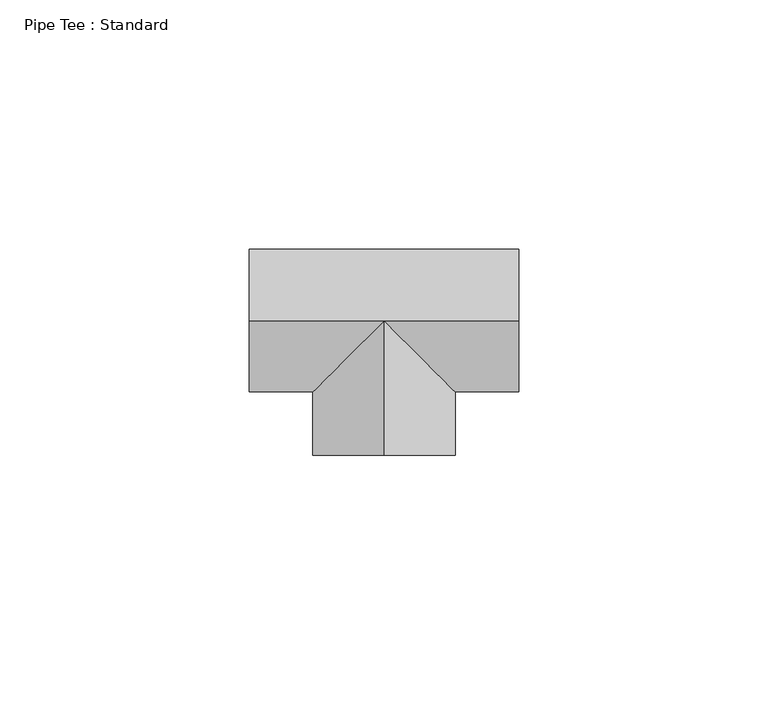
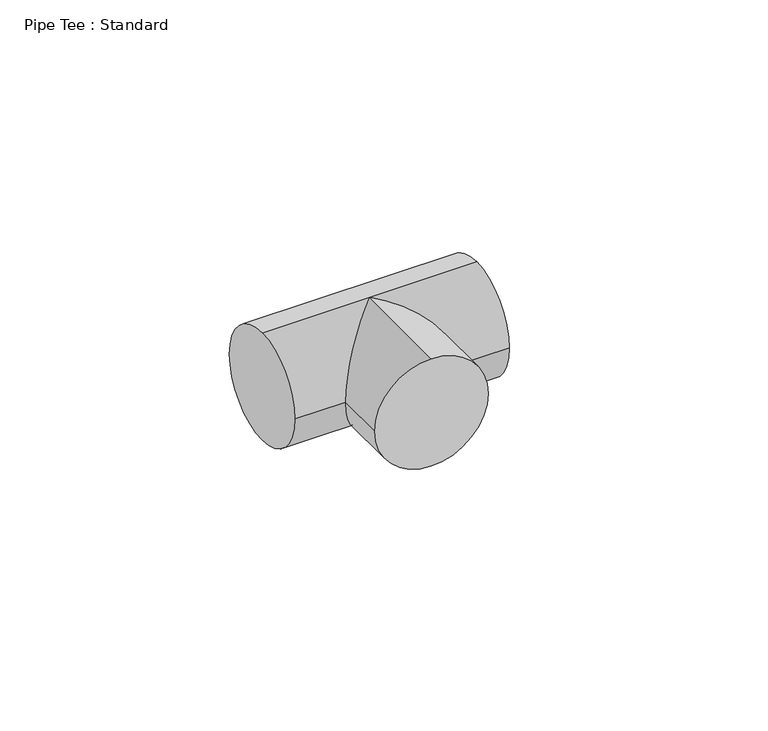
"""IFC4 building model written with IfcOpenShell, lengths in millimetres: pipe fitting geometry, Pipe Tee : Standard."""

from ifc_helpers import new_model, si_unit, frame, origin, place, context, project, spatial, circle_curve, ellipse_curve, source, transform, mapped, element, save
from ifc_brep_helpers import plane_surface, cylinder_surface, advanced_brep


def pipe_tee_standard_ee363fbf(model_context):
    return source(origin(), model_context, "Body", "AdvancedBrep", [
        advanced_brep(
        [(-26.9875, 0.0, 14.2875), (-26.9875, 14.2875, 0.0), (-26.9875, 0.0, -14.2875), (-26.9875, -14.2875, 0.0), (26.9875, 0.0, 14.2875), (26.9875, -14.2875, 0.0), (26.9875, 0.0, -14.2875), (26.9875, 14.2875, 0.0), (0.0, 0.0, 14.2875), (0.0, 0.0, -14.2875), (-14.2875, -14.2875, 0.0), (14.2875, -14.2875, 0.0), (0.0, -26.9875, 14.2875), (-14.2875, -26.9875, 0.0), (0.0, -26.9875, -14.2875), (14.2875, -26.9875, 0.0)],
        [
            (0, 1, circle_curve(frame((-26.9875, 0.0, 0.0), z_axis=(-1.0, 0.0, 0.0), x_axis=(0.0, 1.0, 0.0)), 14.2875)),
            (1, 2, circle_curve(frame((-26.9875, 0.0, 0.0), z_axis=(-1.0, 0.0, 0.0), x_axis=(0.0, 1.0, 0.0)), 14.2875)),
            (2, 3, circle_curve(frame((-26.9875, 0.0, 0.0), z_axis=(-1.0, 0.0, 0.0), x_axis=(0.0, 1.0, 0.0)), 14.2875)),
            (3, 0, circle_curve(frame((-26.9875, 0.0, 0.0), z_axis=(-1.0, 0.0, 0.0), x_axis=(0.0, 1.0, 0.0)), 14.2875)),
            (4, 5, circle_curve(frame((26.9875, 0.0, 0.0), z_axis=(1.0, 0.0, 0.0), x_axis=(0.0, 1.0, 0.0)), 14.2875)),
            (5, 6, circle_curve(frame((26.9875, 0.0, 0.0), z_axis=(1.0, 0.0, 0.0), x_axis=(0.0, 1.0, 0.0)), 14.2875)),
            (6, 7, circle_curve(frame((26.9875, 0.0, 0.0), z_axis=(1.0, 0.0, 0.0), x_axis=(0.0, 1.0, 0.0)), 14.2875)),
            (7, 4, circle_curve(frame((26.9875, 0.0, 0.0), z_axis=(1.0, 0.0, 0.0), x_axis=(0.0, 1.0, 0.0)), 14.2875)),
            (0, 8),
            (8, 4),
            (7, 1),
            (6, 9),
            (9, 2),
            (9, 10, ellipse_curve(frame((0.0, 0.0, 0.0), z_axis=(-0.707106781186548, 0.7071067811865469, 0.0), x_axis=(-0.7071067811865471, -0.7071067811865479, 0.0)), 20.2055763, 14.2875)),
            (10, 3),
            (5, 11),
            (11, 9, ellipse_curve(frame((0.0, 0.0, 0.0), z_axis=(0.7071067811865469, 0.7071067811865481, 0.0), x_axis=(-0.7071067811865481, 0.7071067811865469, 0.0)), 20.2055763, 14.2875)),
            (10, 8, ellipse_curve(frame((0.0, 0.0, 0.0), z_axis=(-0.707106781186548, 0.7071067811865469, 0.0), x_axis=(-0.7071067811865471, -0.7071067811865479, 0.0)), 20.2055763, 14.2875)),
            (8, 11, ellipse_curve(frame((0.0, 0.0, 0.0), z_axis=(0.7071067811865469, 0.7071067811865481, 0.0), x_axis=(-0.7071067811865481, 0.7071067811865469, 0.0)), 20.2055763, 14.2875)),
            (12, 13, circle_curve(frame((0.0, -26.9875, 0.0), z_axis=(0.0, -1.0, 0.0), x_axis=(1.0, 0.0, 0.0)), 14.2875)),
            (13, 14, circle_curve(frame((0.0, -26.9875, 0.0), z_axis=(0.0, -1.0, 0.0), x_axis=(1.0, 0.0, 0.0)), 14.2875)),
            (14, 15, circle_curve(frame((0.0, -26.9875, 0.0), z_axis=(0.0, -1.0, 0.0), x_axis=(1.0, 0.0, 0.0)), 14.2875)),
            (15, 12, circle_curve(frame((0.0, -26.9875, 0.0), z_axis=(0.0, -1.0, 0.0), x_axis=(1.0, 0.0, 0.0)), 14.2875)),
            (15, 11),
            (8, 12),
            (14, 9),
            (13, 10),
        ],
        [
            plane_surface(frame((-26.9875, 0.0, 0.0), z_axis=(-1.0, 0.0, 0.0), x_axis=(0.0, 0.0, 1.0))),
            plane_surface(frame((26.9875, 0.0, 0.0), z_axis=(1.0, 0.0, 0.0), x_axis=(0.0, 0.0, 1.0))),
            cylinder_surface(frame((-26.9875, 0.0, 0.0), z_axis=(-1.0, 0.0, 0.0), x_axis=(0.0, 1.0, 0.0)), 14.2875),
            plane_surface(frame((0.0, -26.9875, 0.0), z_axis=(0.0, -1.0, 0.0), x_axis=(0.0, 0.0, 1.0))),
            cylinder_surface(frame((0.0, 0.0, 0.0), z_axis=(0.0, 1.0, 0.0), x_axis=(1.0, 0.0, 0.0)), 14.2875),
        ],
        [
            (0, [[1, 2, 3, 4]]),
            (1, [[5, 6, 7, 8]]),
            (2, [[-1, 9, 10, -8, 11]]),
            (2, [[-2, -11, -7, 12, 13]]),
            (2, [[-3, -13, 14, 15]]),
            (2, [[-6, 16, 17, -12]]),
            (2, [[-4, -15, 18, -9]]),
            (2, [[-5, -10, 19, -16]]),
            (3, [[20, 21, 22, 23]]),
            (4, [[-23, 24, -19, 25]]),
            (4, [[-22, 26, -17, -24]]),
            (4, [[-21, 27, -14, -26]]),
            (4, [[-20, -25, -18, -27]]),
        ],
    ),
        advanced_brep(
        [(-26.9875, 0.0, 14.2875), (-26.9875, 14.2875, 0.0), (-26.9875, 0.0, -14.2875), (-26.9875, -14.2875, 0.0), (26.9875, 0.0, 14.2875), (26.9875, -14.2875, 0.0), (26.9875, 0.0, -14.2875), (26.9875, 14.2875, 0.0), (0.0, 0.0, 14.2875), (0.0, 0.0, -14.2875), (-14.2875, -14.2875, 0.0), (14.2875, -14.2875, 0.0), (0.0, -26.9875, 14.2875), (-14.2875, -26.9875, 0.0), (0.0, -26.9875, -14.2875), (14.2875, -26.9875, 0.0)],
        [
            (0, 1, circle_curve(frame((-26.9875, 0.0, 0.0), z_axis=(-1.0, 0.0, 0.0), x_axis=(0.0, 1.0, 0.0)), 14.2875)),
            (1, 2, circle_curve(frame((-26.9875, 0.0, 0.0), z_axis=(-1.0, 0.0, 0.0), x_axis=(0.0, 1.0, 0.0)), 14.2875)),
            (2, 3, circle_curve(frame((-26.9875, 0.0, 0.0), z_axis=(-1.0, 0.0, 0.0), x_axis=(0.0, 1.0, 0.0)), 14.2875)),
            (3, 0, circle_curve(frame((-26.9875, 0.0, 0.0), z_axis=(-1.0, 0.0, 0.0), x_axis=(0.0, 1.0, 0.0)), 14.2875)),
            (4, 5, circle_curve(frame((26.9875, 0.0, 0.0), z_axis=(1.0, 0.0, 0.0), x_axis=(0.0, 1.0, 0.0)), 14.2875)),
            (5, 6, circle_curve(frame((26.9875, 0.0, 0.0), z_axis=(1.0, 0.0, 0.0), x_axis=(0.0, 1.0, 0.0)), 14.2875)),
            (6, 7, circle_curve(frame((26.9875, 0.0, 0.0), z_axis=(1.0, 0.0, 0.0), x_axis=(0.0, 1.0, 0.0)), 14.2875)),
            (7, 4, circle_curve(frame((26.9875, 0.0, 0.0), z_axis=(1.0, 0.0, 0.0), x_axis=(0.0, 1.0, 0.0)), 14.2875)),
            (0, 8),
            (8, 4),
            (7, 1),
            (6, 9),
            (9, 2),
            (9, 10, ellipse_curve(frame((0.0, 0.0, 0.0), z_axis=(-0.707106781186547, 0.7071067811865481, 0.0), x_axis=(-0.707106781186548, -0.707106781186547, 0.0)), 20.2055763, 14.2875)),
            (10, 3),
            (5, 11),
            (11, 9, ellipse_curve(frame((0.0, 0.0, 0.0), z_axis=(0.707106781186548, 0.7071067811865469, 0.0), x_axis=(-0.707106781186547, 0.707106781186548, 0.0)), 20.2055763, 14.2875)),
            (10, 8, ellipse_curve(frame((0.0, 0.0, 0.0), z_axis=(-0.707106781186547, 0.7071067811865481, 0.0), x_axis=(-0.707106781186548, -0.707106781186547, 0.0)), 20.2055763, 14.2875)),
            (8, 11, ellipse_curve(frame((0.0, 0.0, 0.0), z_axis=(0.707106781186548, 0.7071067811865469, 0.0), x_axis=(-0.707106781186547, 0.707106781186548, 0.0)), 20.2055763, 14.2875)),
            (12, 13, circle_curve(frame((0.0, -26.9875, 0.0), z_axis=(0.0, -1.0, 0.0), x_axis=(1.0, 0.0, 0.0)), 14.2875)),
            (13, 14, circle_curve(frame((0.0, -26.9875, 0.0), z_axis=(0.0, -1.0, 0.0), x_axis=(1.0, 0.0, 0.0)), 14.2875)),
            (14, 15, circle_curve(frame((0.0, -26.9875, 0.0), z_axis=(0.0, -1.0, 0.0), x_axis=(1.0, 0.0, 0.0)), 14.2875)),
            (15, 12, circle_curve(frame((0.0, -26.9875, 0.0), z_axis=(0.0, -1.0, 0.0), x_axis=(1.0, 0.0, 0.0)), 14.2875)),
            (15, 11),
            (8, 12),
            (14, 9),
            (13, 10),
        ],
        [
            plane_surface(frame((-26.9875, 0.0, 0.0), z_axis=(-1.0, 0.0, 0.0), x_axis=(0.0, 0.0, 1.0))),
            plane_surface(frame((26.9875, 0.0, 0.0), z_axis=(1.0, 0.0, 0.0), x_axis=(0.0, 0.0, 1.0))),
            cylinder_surface(frame((-26.9875, 0.0, 0.0), z_axis=(-1.0, 0.0, 0.0), x_axis=(0.0, 1.0, 0.0)), 14.2875),
            plane_surface(frame((0.0, -26.9875, 0.0), z_axis=(0.0, -1.0, 0.0), x_axis=(0.0, 0.0, 1.0))),
            cylinder_surface(frame((0.0, 0.0, 0.0), z_axis=(0.0, 1.0, 0.0), x_axis=(1.0, 0.0, 0.0)), 14.2875),
        ],
        [
            (0, [[1, 2, 3, 4]]),
            (1, [[5, 6, 7, 8]]),
            (2, [[-1, 9, 10, -8, 11]]),
            (2, [[-2, -11, -7, 12, 13]]),
            (2, [[-3, -13, 14, 15]]),
            (2, [[-6, 16, 17, -12]]),
            (2, [[-4, -15, 18, -9]]),
            (2, [[-5, -10, 19, -16]]),
            (3, [[20, 21, 22, 23]]),
            (4, [[-23, 24, -19, 25]]),
            (4, [[-22, 26, -17, -24]]),
            (4, [[-21, 27, -14, -26]]),
            (4, [[-20, -25, -18, -27]]),
        ],
    ),
    ])


if __name__ == "__main__":
    model = new_model("IFC4")
    model_context = context("Model", 3, world=origin())
    ifc_project = project(units=[si_unit("LENGTHUNIT", "METRE", prefix="MILLI")], contexts=[model_context])
    site = spatial("IfcSite", under=ifc_project)
    building = spatial("IfcBuilding", under=site)
    placement = place(None, origin())
    pipe_tee_standard_shape = pipe_tee_standard_ee363fbf(model_context)
    element("IfcPipeFitting", 1, ObjectType="Pipe Tee : Standard", at=placement, inside=building, context=model_context, shape_type="MappedRepresentation", body=[
        mapped(pipe_tee_standard_shape, transform((0.0, 0.0, 0.0), x_axis=(1.0, 0.0, 0.0), y_axis=(0.0, 1.0, 0.0), z_axis=(0.0, 0.0, 1.0))),
    ])
    save(model, "model.ifc")
